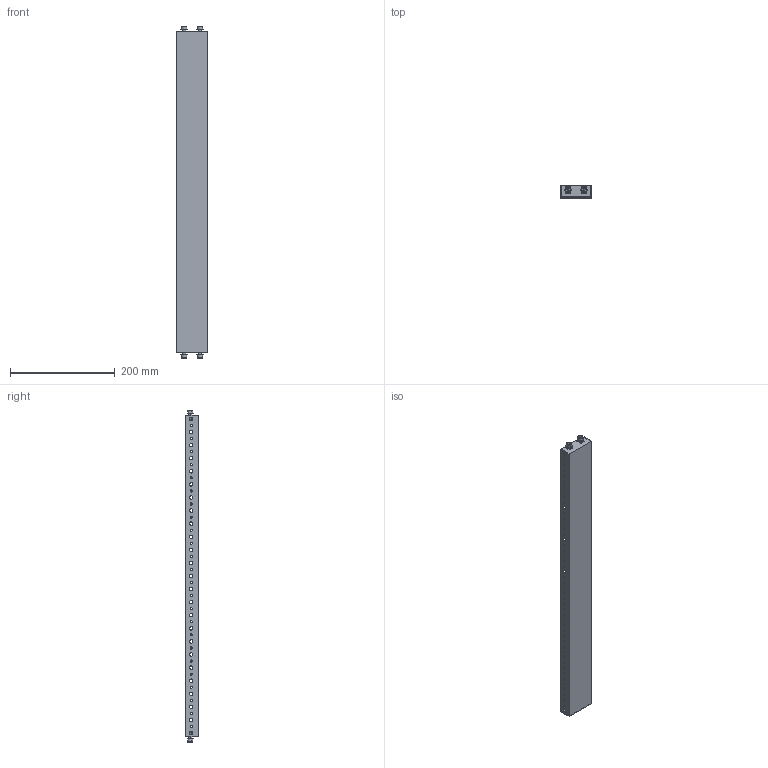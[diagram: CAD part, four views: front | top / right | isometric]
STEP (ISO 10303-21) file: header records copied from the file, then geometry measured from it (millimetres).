
FILE_DESCRIPTION(('Open CASCADE Model'),'2;1');
FILE_NAME('Open CASCADE Shape Model','2025-02-28T14:45:30',('Author'),( 'Open CASCADE'),'Open CASCADE STEP processor 7.8','Open CASCADE 7.8' ,'Unknown');
FILE_SCHEMA(('AUTOMOTIVE_DESIGN { 1 0 10303 214 1 1 1 1 }'));
Length unit declared in the file: millimetre
Products named in the file (5): Compound1; Solid1; Solid2; Solid3; Solid4
Assembly tree (13 placements, depth 2):
  Compound1
    Solid1
    Solid2  x4
    Solid3  x4
    Solid4  x4
Bounding box: 60.5 x 23 x 634.2 mm (x, y, z)
Volume: 100996.2 mm3; surface area: 139231.3 mm2
Topology: 13 solids, 13 shells, 810 faces, 2276 edges, 1484 vertices
Faces by surface type: cylinder 436, plane 326, cone 32, torus 16
Entity records: 13200 total; most frequent: CARTESIAN_POINT 2424, DIRECTION 2318, ORIENTED_EDGE 2160, EDGE_CURVE 1080, AXIS2_PLACEMENT_3D 901, VERTEX_POINT 713, FACE_BOUND 587, EDGE_LOOP 587
